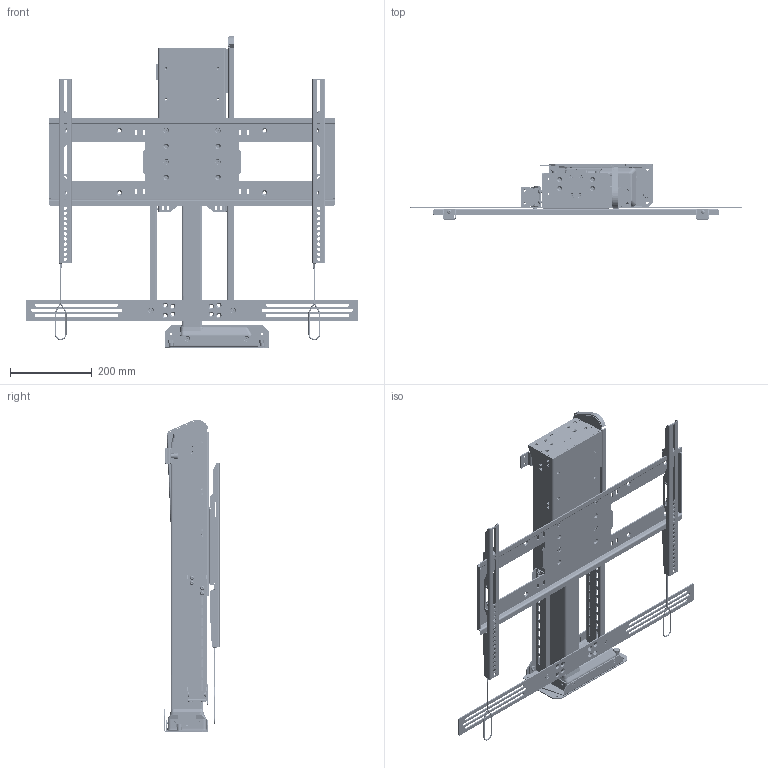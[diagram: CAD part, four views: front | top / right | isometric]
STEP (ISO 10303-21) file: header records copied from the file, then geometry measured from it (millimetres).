
FILE_DESCRIPTION(/* description */ ('STEP AP242','CAx-IF Rec.Pracs.---Representation and Presentation of Product Manufacturing Information (PMI)---4.0---2014-10-13','CAx-IF Rec.Pracs.---3D Tessellated Geometry---0.4---2014-09-14','2;1'),/* implementation_level */ '2;1');
FILE_NAME(/* name */ '63effc13e841dc281484804d',/* time_stamp */ '2023-02-17T22:13:44+00:00',/* author */ (''),/* organization */ (''),/* preprocessor_version */ 'ST-DEVELOPER v18.102',/* originating_system */ ' ',/* authorisation */ ' ');
FILE_SCHEMA (('AP242_MANAGED_MODEL_BASED_3D_ENGINEERING_MIM_LF { 1 0 10303 442 1 1 4 }'));
Products named in the file (48): L-65/s; Hex socket countersunk head screw M6x1 x 16; Hex socket countersunk head screw M6x1 x 12; Socket button head screw M6x1 x 12; Socket button head screw M6x1 x 8; ULS-NX-037 -- ULS HTG Adapter Plate; WDS8151-215; OLD_ULS-NX-024 - ULS Hinged Top Guide; ULS-NX-011 - ULS ACCESSORY MOUNTING BRACKET SPACER <2>; ULS-NX-011 - UL ACCESSORY MOUNTING BRACKET SPACER; PRODUCT_NAME_1; ULS Accessories <1>; ULS-NX-010 - ULS ACCESSORY MOUNTING BRACKET W PEMS <2>; PEM CLS-M6-2  ; ULS-NX-010 - UL ACCESSORY MOUNTING BRACKET; L-85 SOUND BAR MOUNT; ULS-NX-010 - ULS ACCESSORY MOUNTING BRACKET W PEMS <1>; ULS-NX-108 - ULS SCREEN SUPPORT WELDMENT <1>; PEM CLS-M6-1  ; F-M6-3 M6 PEM NUT; ULS-NX-008 - UL SCREEN SUPPORT SHELL; ULS-NX-009 - ULS SCREEN SUPPORT TOP PLATE <1>; ULS-NX-009 - UL SCREEN SUPPORT TOP PLATE; SBP & VMB <1>; PZ Pan head screw M5x0.80 x 25; ULS-NX-017 - UL SCREEN BACK PLATE; Lanyard; ULS-NX-118 - UL VMB WELDMENT <2>; Socket button head cap screw #6-32 x 0.188; VMB Washer; ULS-NX-019 - UL LEVEL ADJUSTMENT PLATE; PEM BSO-632-10  ZI; 90107A012; ULS-NX-018 - UL VERICAL MOUNTING BAR; ULS-NX-020 - UL SCREEN LOCK; ULS-NX-118 - UL VMB WELDMENT <1>; L-65 Lower Sub Assembly <1>; ULS-NX-002 - ULS QUICK RELEASE LC MOUNT; ULS-NX-004 - ULS COLUMN CLAMP; ULS-NX-001 - ULS QUICK RELEASE BASE MOUNT W/ PEMS <1>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
Assembly tree (142 placements, depth 4):
  L-65/s
    Hex socket countersunk head screw M6x1 x 16  x4
    Hex socket countersunk head screw M6x1 x 12  x10
    Socket button head screw M6x1 x 12  x8
    Socket button head screw M6x1 x 8  x4
    ULS-NX-037 -- ULS HTG Adapter Plate
    WDS8151-215  x4
    OLD_ULS-NX-024 - ULS Hinged Top Guide
    ULS-NX-011 - ULS ACCESSORY MOUNTING BRACKET SPACER <2>
      ULS-NX-011 - UL ACCESSORY MOUNTING BRACKET SPACER
      PRODUCT_NAME_1  x2
    ULS Accessories <1>
      Hex socket countersunk head screw M6x1 x 12  x2
      ULS-NX-010 - ULS ACCESSORY MOUNTING BRACKET W PEMS <2>
        PEM CLS-M6-2    x4
        ULS-NX-010 - UL ACCESSORY MOUNTING BRACKET
      L-85 SOUND BAR MOUNT
      ULS-NX-010 - ULS ACCESSORY MOUNTING BRACKET W PEMS <1>
        PEM CLS-M6-2    x4
        ULS-NX-010 - UL ACCESSORY MOUNTING BRACKET
    ULS-NX-108 - ULS SCREEN SUPPORT WELDMENT <1>
      PEM CLS-M6-1    x32
      F-M6-3 M6 PEM NUT
      ULS-NX-008 - UL SCREEN SUPPORT SHELL
      ULS-NX-009 - ULS SCREEN SUPPORT TOP PLATE <1>
        PEM CLS-M6-1    x4
        ULS-NX-009 - UL SCREEN SUPPORT TOP PLATE
    SBP & VMB <1>
      PZ Pan head screw M5x0.80 x 25  x2
      ULS-NX-017 - UL SCREEN BACK PLATE
      Lanyard  x2
      ULS-NX-118 - UL VMB WELDMENT <2>
        Socket button head cap screw #6-32 x 0.188  x2
        VMB Washer  x4
        ULS-NX-019 - UL LEVEL ADJUSTMENT PLATE
        PEM BSO-632-10  ZI  x2
        90107A012  x2
        ULS-NX-018 - UL VERICAL MOUNTING BAR
        ULS-NX-020 - UL SCREEN LOCK
      ULS-NX-118 - UL VMB WELDMENT <1>
        VMB Washer  x4
        Socket button head cap screw #6-32 x 0.188  x2
        PEM BSO-632-10  ZI  x2
        ULS-NX-020 - UL SCREEN LOCK
        ULS-NX-018 - UL VERICAL MOUNTING BAR
        90107A012  x2
        ULS-NX-019 - UL LEVEL ADJUSTMENT PLATE
    L-65 Lower Sub Assembly <1>
      ULS-NX-002 - ULS QUICK RELEASE LC MOUNT
      ULS-NX-004 - ULS COLUMN CLAMP
      ULS-NX-001 - ULS QUICK RELEASE BASE MOUNT W/ PEMS <1>
        PEM FHS-M6-12    x2
        ULS-NX-001 - ULS QUICK RELEASE BASE MOUNT
      ULS-NX-022 - ULS REAR SUPPORT <1>
        ULS-NX-022 - ULS REAR SUPPORT
        PEM FHS-M6-12    x2
      DL16XL_STANDART_ASM <1>
        L45 LC Inner Profile
        L45 LC Motor Housing
        L45 LC Middle Profile
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Bounding box: 812.8 x 135.05 x 764.98 mm (x, y, z)
Volume: 8593055.2 mm3; surface area: 1708902.2 mm2
Topology: 129 solids, 129 shells, 9836 faces, 26295 edges, 17036 vertices
Faces by surface type: plane 6865, cylinder 1728, cone 583, bspline 430, torus 200, sphere 30
Full cylindrical faces by diameter (mm): 2.032 x14, 2.642 x4, 3.175 x10, 3.505 x4, 4.6 x2, 4.917 x45, 5 x20, 5.026 x4, 5.08 x4, 5.277 x8, 5.3 x6, 5.385 x12, 5.41 x8, 5.486 x4, 5.499 x2, 5.6 x4, 5.613 x6, 5.944 x4, 5.994 x2, 6 x46, 6.095 x2, 6.35 x16, 6.528 x4, 6.6 x4, 6.604 x4, 6.655 x4, 6.976 x1, 7.112 x2, 7.19 x2, 7.62 x2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
Entity records: 97580 total; most frequent: CARTESIAN_POINT 18979, DIRECTION 15380, ORIENTED_EDGE 15054, EDGE_CURVE 7527, AXIS2_PLACEMENT_3D 5215, VERTEX_POINT 4993, LINE 4950, VECTOR 4950
